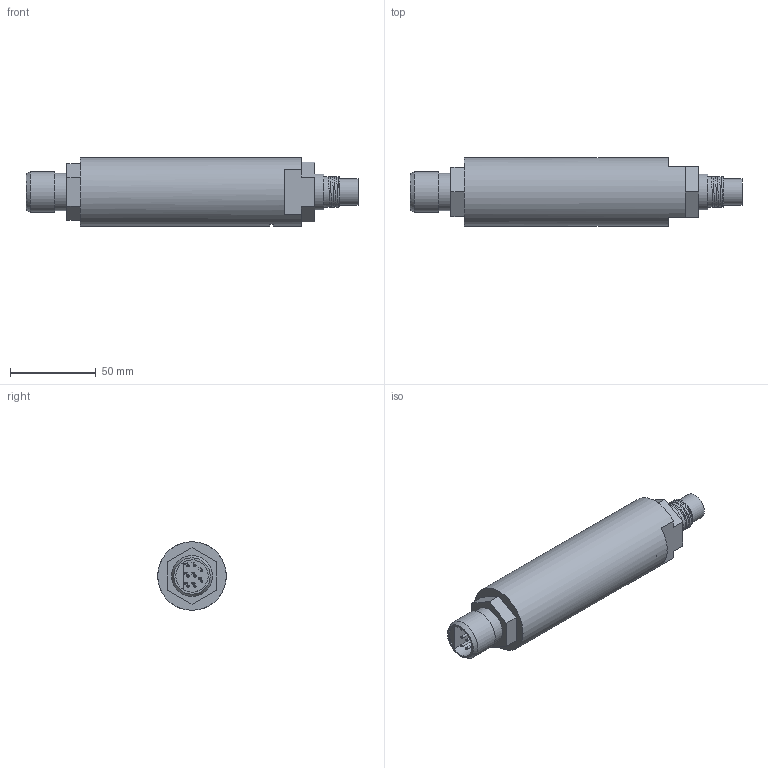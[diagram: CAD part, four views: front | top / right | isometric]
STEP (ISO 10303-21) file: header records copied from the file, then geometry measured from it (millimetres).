
FILE_DESCRIPTION(/* description */ (''),/* implementation_level */ '2;1');
FILE_NAME(/* name */ 'C:\Users\sha\Desktop\101830.Model_Shrinkwrap_1.stp',/* time_stamp */ '2017-04-24T11:55:22-07:00',/* author */ ('sha'),/* organization */ (''),/* preprocessor_version */ 'ST-DEVELOPER v16.5',/* originating_system */ 'Autodesk Inventor 2017',/* authorisation */ '');
FILE_SCHEMA (('AUTOMOTIVE_DESIGN { 1 0 10303 214 3 1 1 }'));
Length unit declared in the file: inch
Products named in the file (1): 101830.Model_Shrinkwrap_1
Bounding box: 193.75 x 40 x 40 mm (x, y, z)
Volume: 183750.2 mm3; surface area: 26128.5 mm2
Topology: 1 solids, 1 shells, 266 faces, 697 edges, 465 vertices
Faces by surface type: plane 128, bspline 107, cylinder 26, cone 4, torus 1
Full cylindrical faces by diameter (mm): 1.3 x8, 2 x1, 3 x2, 4.8 x2, 15.5 x1, 18 x3, 18.868 x1, 21 x1, 21.812 x1, 23.812 x1, 40 x1
Entity records: 9553 total; most frequent: CARTESIAN_POINT 3532, ORIENTED_EDGE 1316, DIRECTION 840, EDGE_CURVE 658, VERTEX_POINT 453, LINE 374, VECTOR 374, EDGE_LOOP 319
